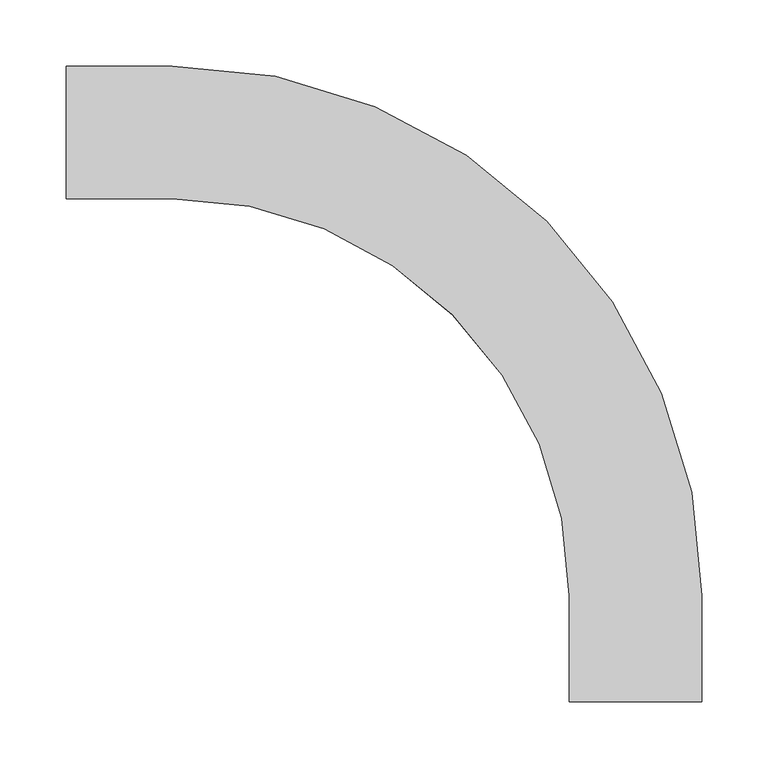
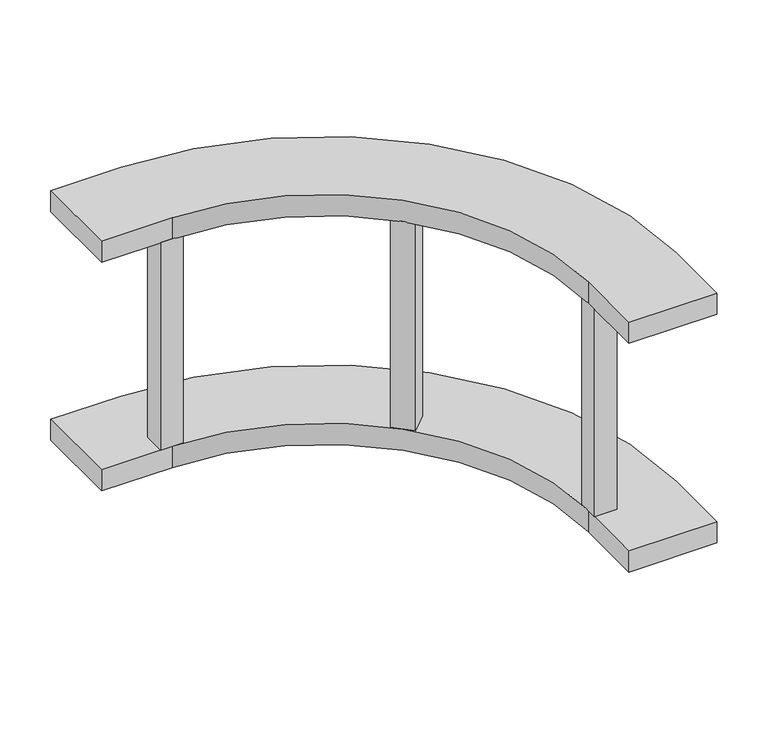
"""IFC4 building model written with IfcOpenShell, lengths in millimetres: cable carrier fitting geometry, 61_CTF_kabelgoot_open_bocht_verticaal_buiten : bocht verticaal buiten, standaard."""

from ifc_helpers import new_model, si_unit, point, frame, frame_2d, origin, place, context, project, spatial, polyline, circle_curve, trimmed, segment, composite_curve, outline, extrude, source, transform, mapped, element, save


def cable_carrier_fitting_357548b9(model_context):
    return source(origin(), model_context, "Body", "SweptSolid", [
        extrude(outline(polyline([(-50.0, -362.7), (-50.0, -337.3), (-24.6, -337.3), (-24.6, -362.7), (-50.0, -362.7)])), frame((0.0, 0.0, -124.6), z_axis=(0.0, 0.0, 1.0), x_axis=(1.0, 0.0, 0.0)), (0.0, 0.0, 1.0), 249.2),
        extrude(outline(polyline([(-128.8877095, -146.8482218), (-146.8482218, -128.8877095), (-128.8877095, -110.9271973), (-110.9271973, -128.8877095), (-128.8877095, -146.8482218)])), frame((0.0, 0.0, -124.6), z_axis=(0.0, 0.0, 1.0), x_axis=(1.0, 0.0, 0.0)), (0.0, 0.0, 1.0), 249.2),
        extrude(outline(polyline([(-362.7, -24.6), (-337.3, -24.6), (-337.3, -50.0), (-362.7, -50.0), (-362.7, -24.6)])), frame((0.0, 0.0, -124.6), z_axis=(0.0, 0.0, 1.0), x_axis=(1.0, 0.0, 0.0)), (0.0, 0.0, 1.0), 249.2),
        extrude(outline(composite_curve([segment(polyline([(-430.0, 50.0), (-350.0, 50.0)]), True, "CONTINUOUS"), segment(trimmed(circle_curve(frame_2d((-350.0, -350.0)), 400.0), [point((-350.0, 50.0))], [point((50.0, -350.0))], False, "CARTESIAN"), True, "CONTINUOUS"), segment(polyline([(50.0, -350.0), (50.0, -430.0), (-50.0, -430.0), (-50.0, -350.0)]), True, "CONTINUOUS"), segment(trimmed(circle_curve(frame_2d((-350.0, -350.0)), 300.0), [point((-50.0, -350.0))], [point((-350.0, -50.0))], True, "CARTESIAN"), True, "CONTINUOUS"), segment(polyline([(-350.0, -50.0), (-430.0, -50.0), (-430.0, 50.0)]), True, "CONTINUOUS")], self_intersect=False)), frame((0.0, 0.0, 124.6), z_axis=(0.0, 0.0, 1.0), x_axis=(1.0, 0.0, 0.0)), (0.0, 0.0, 1.0), 25.4),
        extrude(outline(composite_curve([segment(polyline([(-430.0, 50.0), (-350.0, 50.0)]), True, "CONTINUOUS"), segment(trimmed(circle_curve(frame_2d((-350.0, -350.0)), 400.0), [point((-350.0, 50.0))], [point((50.0, -350.0))], False, "CARTESIAN"), True, "CONTINUOUS"), segment(polyline([(50.0, -350.0), (50.0, -430.0), (-50.0, -430.0), (-50.0, -350.0)]), True, "CONTINUOUS"), segment(trimmed(circle_curve(frame_2d((-350.0, -350.0)), 300.0), [point((-50.0, -350.0))], [point((-350.0, -50.0))], True, "CARTESIAN"), True, "CONTINUOUS"), segment(polyline([(-350.0, -50.0), (-430.0, -50.0), (-430.0, 50.0)]), True, "CONTINUOUS")], self_intersect=False)), frame((0.0, 0.0, -150.0), z_axis=(0.0, 0.0, 1.0), x_axis=(1.0, 0.0, 0.0)), (0.0, 0.0, 1.0), 25.4),
    ])


if __name__ == "__main__":
    model = new_model("IFC4")
    model_context = context("Model", 3, world=origin())
    ifc_project = project(units=[si_unit("LENGTHUNIT", "METRE", prefix="MILLI")], contexts=[model_context])
    site = spatial("IfcSite", under=ifc_project)
    building = spatial("IfcBuilding", under=site)
    placement = place(None, origin())
    cable_carrier_fitting_shape = cable_carrier_fitting_357548b9(model_context)
    element("IfcCableCarrierFitting", 1, ObjectType="61_CTF_kabelgoot_open_bocht_verticaal_buiten : bocht verticaal buiten, standaard", at=placement, inside=building, context=model_context, shape_type="MappedRepresentation", body=[
        mapped(cable_carrier_fitting_shape, transform((0.0, 0.0, 0.0), x_axis=(1.0, 0.0, 0.0), y_axis=(0.0, 1.0, 0.0), z_axis=(0.0, 0.0, 1.0))),
    ])
    save(model, "model.ifc")
